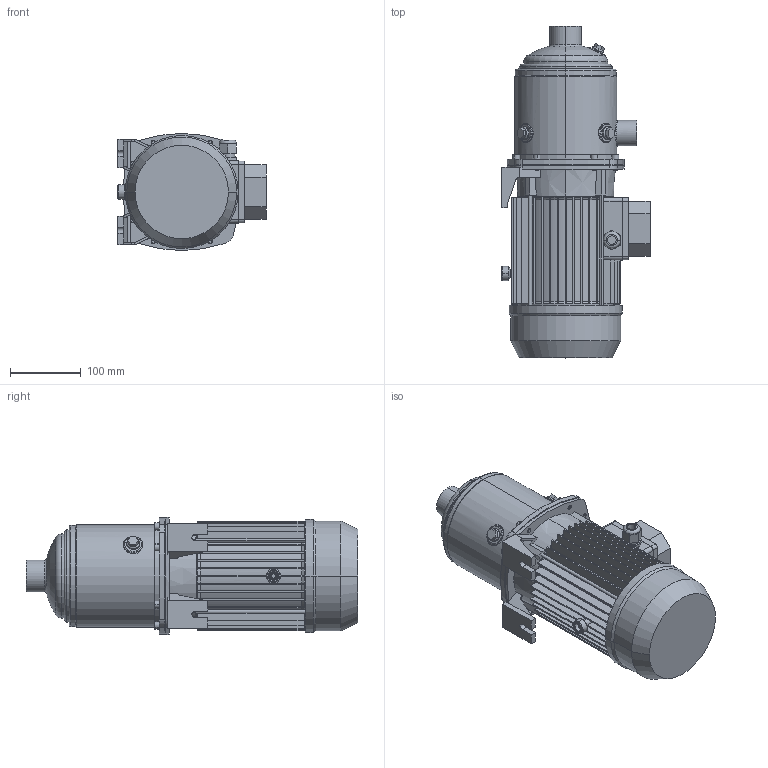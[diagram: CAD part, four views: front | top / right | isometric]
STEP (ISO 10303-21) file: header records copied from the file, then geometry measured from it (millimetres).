
FILE_DESCRIPTION((''),'2;1');
FILE_NAME('MATRIX_5-5T_1_3_IE3_ASM','2017-06-04T',('rosa'),('"Ebara Pumps Europe +39.444.706811"'),'PRO/ENGINEER BY PARAMETRIC TECHNOLOGY CORPORATION, 2012130','PRO/ENGINEER BY PARAMETRIC TECHNOLOGY CORPORATION, 2012130','');
FILE_SCHEMA(('AUTOMOTIVE_DESIGN { 1 0 10303 214 1 1 1 1 }'));
Length unit declared in the file: millimetre
Products named in the file (5): CORPO_POMPA_MATRIX_5-5; SUPPORTO_MATRIX_MEC_80; MEC_80X130_IE3; 72229; MATRIX_5-5T_1_3_IE3_ASM
Assembly tree (4 placements, depth 2):
  MATRIX_5-5T_1_3_IE3_ASM
    CORPO_POMPA_MATRIX_5-5
    SUPPORTO_MATRIX_MEC_80
    MEC_80X130_IE3
    72229
Bounding box: 209 x 467.8 x 165 mm (x, y, z)
Volume: 5363584.9 mm3; surface area: 578171.8 mm2
Topology: 4 solids, 4 shells, 718 faces, 1729 edges, 1067 vertices
Faces by surface type: plane 377, cylinder 186, cone 102, torus 37, bspline 14, sphere 2
Entity records: 28161 total; most frequent: CARTESIAN_POINT 5444, DIRECTION 3658, ORIENTED_EDGE 3458, EDGE_CURVE 1729, PRESENTATION_STYLE_ASSIGNMENT 1682, STYLED_ITEM 1682, CURVE_STYLE 1679, AXIS2_PLACEMENT_3D 1400
